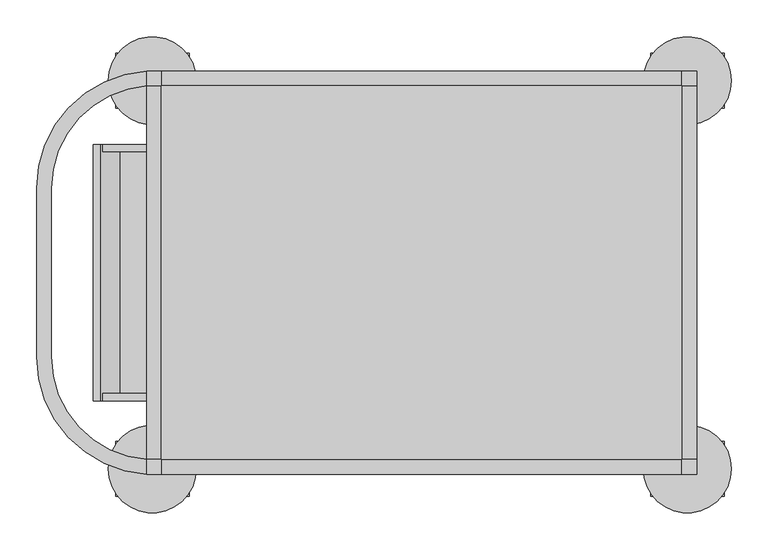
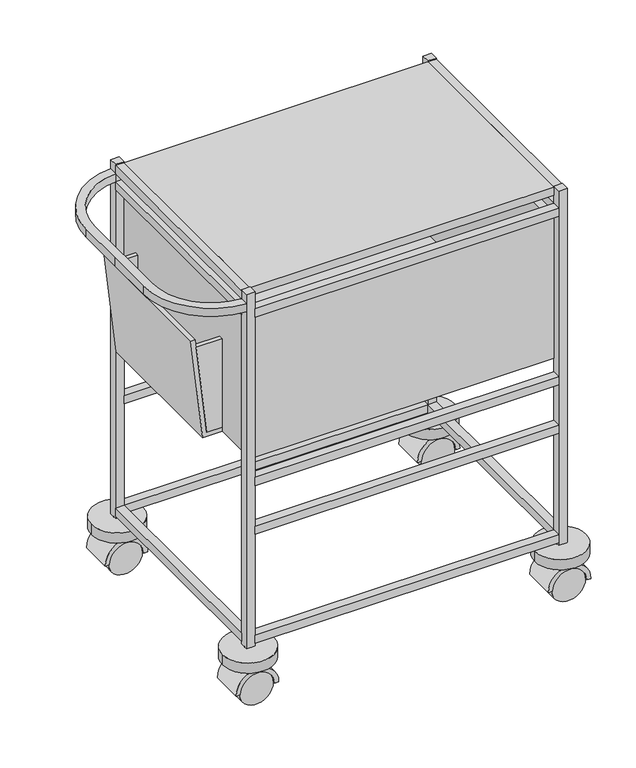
"""IFC4 building model written with IfcOpenShell, lengths in millimetres: furniture geometry, BIMHealth-Trolley_Notes_750x550-LOD2A-v1 : BIMHealth-Trolley_Notes_750x550-LOD2A-v1."""

from ifc_helpers import new_model, si_unit, point, frame, frame_2d, origin, place, context, project, spatial, polyline, circle_curve, trimmed, segment, composite_curve, outline, extrude, source, transform, mapped, element, save


def furniture_1a2447f9(model_context):
    return source(origin(), model_context, "Body", "SweptSolid", [
        extrude(outline(composite_curve([segment(trimmed(circle_curve(frame_2d((362.5, -267.5)), 7.5), [point((362.5, -260.0))], [point((362.5, -275.0))], False, "CARTESIAN"), True, "CONTINUOUS"), segment(trimmed(circle_curve(frame_2d((362.5, -267.5)), 7.5), [point((362.5, -275.0))], [point((362.5, -260.0))], False, "CARTESIAN"), True, "CONTINUOUS")], self_intersect=False)), frame((0.0, 0.0, 156.2360342), z_axis=(0.0, 0.0, 1.0), x_axis=(1.0, 0.0, 0.0)), (0.0, 0.0, 1.0), 20.0),
        extrude(outline(composite_curve([segment(polyline([(156.2360342, 333.2435995), (134.5055625, 333.2435995)]), True, "CONTINUOUS"), segment(trimmed(circle_curve(frame_2d((93.9585154, 362.5)), 50.0), [point((134.5055625, 333.2435995))], [point((134.5055625, 391.7564005))], True, "CARTESIAN"), True, "CONTINUOUS"), segment(polyline([(134.5055625, 391.7564005), (156.2360342, 391.7564005), (156.2360342, 333.2435995)]), True, "CONTINUOUS")], self_intersect=False)), frame((0.0, -290.1256637, 0.0), z_axis=(0.0, 1.0, 0.0), x_axis=(0.0, 0.0, 1.0)), (0.0, 0.0, 1.0), 45.2513275),
        extrude(outline(composite_curve([segment(trimmed(circle_curve(frame_2d((93.9585154, 362.5)), 40.0), [point((93.9585154, 322.5))], [point((93.9585154, 402.5))], True, "CARTESIAN"), True, "CONTINUOUS"), segment(polyline([(93.9585154, 402.5), (93.9585154, 412.5)]), True, "CONTINUOUS"), segment(trimmed(circle_curve(frame_2d((93.9585154, 362.5)), 50.0), [point((93.9585154, 412.5))], [point((93.9585154, 312.5))], False, "CARTESIAN"), True, "CONTINUOUS"), segment(polyline([(93.9585154, 312.5), (93.9585154, 322.5)]), True, "CONTINUOUS")], self_intersect=False)), frame((0.0, -305.2936384, 0.0), z_axis=(0.0, 1.0, 0.0), x_axis=(0.0, 0.0, 1.0)), (0.0, 0.0, 1.0), 75.0),
        extrude(outline(composite_curve([segment(trimmed(circle_curve(frame_2d((93.9585154, 362.5)), 40.0), [point((93.9585154, 402.5))], [point((93.9585154, 322.5))], False, "CARTESIAN"), True, "CONTINUOUS"), segment(trimmed(circle_curve(frame_2d((93.9585154, 362.5)), 40.0), [point((93.9585154, 322.5))], [point((93.9585154, 402.5))], False, "CARTESIAN"), True, "CONTINUOUS")], self_intersect=False)), frame((0.0, -300.2936384, 0.0), z_axis=(0.0, 1.0, 0.0), x_axis=(0.0, 0.0, 1.0)), (0.0, 0.0, 1.0), 20.0),
        extrude(outline(composite_curve([segment(trimmed(circle_curve(frame_2d((93.9585154, 362.5)), 40.0), [point((93.9585154, 402.5))], [point((93.9585154, 322.5))], False, "CARTESIAN"), True, "CONTINUOUS"), segment(trimmed(circle_curve(frame_2d((93.9585154, 362.5)), 40.0), [point((93.9585154, 322.5))], [point((93.9585154, 402.5))], False, "CARTESIAN"), True, "CONTINUOUS")], self_intersect=False)), frame((0.0, -255.2936384, 0.0), z_axis=(0.0, 1.0, 0.0), x_axis=(0.0, 0.0, 1.0)), (0.0, 0.0, 1.0), 20.0),
        extrude(outline(composite_curve([segment(trimmed(circle_curve(frame_2d((-367.2063616, -267.5)), 7.5), [point((-367.2063616, -260.0))], [point((-367.2063616, -275.0))], False, "CARTESIAN"), True, "CONTINUOUS"), segment(trimmed(circle_curve(frame_2d((-367.2063616, -267.5)), 7.5), [point((-367.2063616, -275.0))], [point((-367.2063616, -260.0))], False, "CARTESIAN"), True, "CONTINUOUS")], self_intersect=False)), frame((0.0, 0.0, 156.2360342), z_axis=(0.0, 0.0, 1.0), x_axis=(1.0, 0.0, 0.0)), (0.0, 0.0, 1.0), 20.0),
        extrude(outline(composite_curve([segment(polyline([(156.2360342, -396.4627621), (134.5055625, -396.4627621)]), True, "CONTINUOUS"), segment(trimmed(circle_curve(frame_2d((93.9585154, -367.2063616)), 50.0), [point((134.5055625, -396.4627621))], [point((134.5055625, -337.9499611))], True, "CARTESIAN"), True, "CONTINUOUS"), segment(polyline([(134.5055625, -337.9499611), (156.2360342, -337.9499611), (156.2360342, -396.4627621)]), True, "CONTINUOUS")], self_intersect=False)), frame((0.0, -290.1256637, 0.0), z_axis=(0.0, 1.0, 0.0), x_axis=(0.0, 0.0, 1.0)), (0.0, 0.0, 1.0), 45.2513275),
        extrude(outline(composite_curve([segment(trimmed(circle_curve(frame_2d((93.9585154, -367.2063616)), 40.0), [point((93.9585154, -407.2063616))], [point((93.9585154, -327.2063616))], True, "CARTESIAN"), True, "CONTINUOUS"), segment(polyline([(93.9585154, -327.2063616), (93.9585154, -317.2063616)]), True, "CONTINUOUS"), segment(trimmed(circle_curve(frame_2d((93.9585154, -367.2063616)), 50.0), [point((93.9585154, -317.2063616))], [point((93.9585154, -417.2063616))], False, "CARTESIAN"), True, "CONTINUOUS"), segment(polyline([(93.9585154, -417.2063616), (93.9585154, -407.2063616)]), True, "CONTINUOUS")], self_intersect=False)), frame((0.0, -305.2936384, 0.0), z_axis=(0.0, 1.0, 0.0), x_axis=(0.0, 0.0, 1.0)), (0.0, 0.0, 1.0), 75.0),
        extrude(outline(composite_curve([segment(trimmed(circle_curve(frame_2d((93.9585154, -367.2063616)), 40.0), [point((93.9585154, -327.2063616))], [point((93.9585154, -407.2063616))], False, "CARTESIAN"), True, "CONTINUOUS"), segment(trimmed(circle_curve(frame_2d((93.9585154, -367.2063616)), 40.0), [point((93.9585154, -407.2063616))], [point((93.9585154, -327.2063616))], False, "CARTESIAN"), True, "CONTINUOUS")], self_intersect=False)), frame((0.0, -300.2936384, 0.0), z_axis=(0.0, 1.0, 0.0), x_axis=(0.0, 0.0, 1.0)), (0.0, 0.0, 1.0), 20.0),
        extrude(outline(composite_curve([segment(trimmed(circle_curve(frame_2d((93.9585154, -367.2063616)), 40.0), [point((93.9585154, -327.2063616))], [point((93.9585154, -407.2063616))], False, "CARTESIAN"), True, "CONTINUOUS"), segment(trimmed(circle_curve(frame_2d((93.9585154, -367.2063616)), 40.0), [point((93.9585154, -407.2063616))], [point((93.9585154, -327.2063616))], False, "CARTESIAN"), True, "CONTINUOUS")], self_intersect=False)), frame((0.0, -255.2936384, 0.0), z_axis=(0.0, 1.0, 0.0), x_axis=(0.0, 0.0, 1.0)), (0.0, 0.0, 1.0), 20.0),
        extrude(outline(composite_curve([segment(trimmed(circle_curve(frame_2d((362.5, 262.5)), 7.5), [point((362.5, 270.0))], [point((362.5, 255.0))], False, "CARTESIAN"), True, "CONTINUOUS"), segment(trimmed(circle_curve(frame_2d((362.5, 262.5)), 7.5), [point((362.5, 255.0))], [point((362.5, 270.0))], False, "CARTESIAN"), True, "CONTINUOUS")], self_intersect=False)), frame((0.0, 0.0, 156.2360342), z_axis=(0.0, 0.0, 1.0), x_axis=(1.0, 0.0, 0.0)), (0.0, 0.0, 1.0), 20.0),
        extrude(outline(composite_curve([segment(polyline([(156.2360342, 333.2435995), (134.5055625, 333.2435995)]), True, "CONTINUOUS"), segment(trimmed(circle_curve(frame_2d((93.9585154, 362.5)), 50.0), [point((134.5055625, 333.2435995))], [point((134.5055625, 391.7564005))], True, "CARTESIAN"), True, "CONTINUOUS"), segment(polyline([(134.5055625, 391.7564005), (156.2360342, 391.7564005), (156.2360342, 333.2435995)]), True, "CONTINUOUS")], self_intersect=False)), frame((0.0, 239.8743363, 0.0), z_axis=(0.0, 1.0, 0.0), x_axis=(0.0, 0.0, 1.0)), (0.0, 0.0, 1.0), 45.2513275),
        extrude(outline(composite_curve([segment(trimmed(circle_curve(frame_2d((93.9585154, 362.5)), 40.0), [point((93.9585154, 322.5))], [point((93.9585154, 402.5))], True, "CARTESIAN"), True, "CONTINUOUS"), segment(polyline([(93.9585154, 402.5), (93.9585154, 412.5)]), True, "CONTINUOUS"), segment(trimmed(circle_curve(frame_2d((93.9585154, 362.5)), 50.0), [point((93.9585154, 412.5))], [point((93.9585154, 312.5))], False, "CARTESIAN"), True, "CONTINUOUS"), segment(polyline([(93.9585154, 312.5), (93.9585154, 322.5)]), True, "CONTINUOUS")], self_intersect=False)), frame((0.0, 224.7063616, 0.0), z_axis=(0.0, 1.0, 0.0), x_axis=(0.0, 0.0, 1.0)), (0.0, 0.0, 1.0), 75.0),
        extrude(outline(composite_curve([segment(trimmed(circle_curve(frame_2d((93.9585154, 362.5)), 40.0), [point((93.9585154, 402.5))], [point((93.9585154, 322.5))], False, "CARTESIAN"), True, "CONTINUOUS"), segment(trimmed(circle_curve(frame_2d((93.9585154, 362.5)), 40.0), [point((93.9585154, 322.5))], [point((93.9585154, 402.5))], False, "CARTESIAN"), True, "CONTINUOUS")], self_intersect=False)), frame((0.0, 229.7063616, 0.0), z_axis=(0.0, 1.0, 0.0), x_axis=(0.0, 0.0, 1.0)), (0.0, 0.0, 1.0), 20.0),
        extrude(outline(composite_curve([segment(trimmed(circle_curve(frame_2d((93.9585154, 362.5)), 40.0), [point((93.9585154, 402.5))], [point((93.9585154, 322.5))], False, "CARTESIAN"), True, "CONTINUOUS"), segment(trimmed(circle_curve(frame_2d((93.9585154, 362.5)), 40.0), [point((93.9585154, 322.5))], [point((93.9585154, 402.5))], False, "CARTESIAN"), True, "CONTINUOUS")], self_intersect=False)), frame((0.0, 274.7063616, 0.0), z_axis=(0.0, 1.0, 0.0), x_axis=(0.0, 0.0, 1.0)), (0.0, 0.0, 1.0), 20.0),
        extrude(outline(composite_curve([segment(trimmed(circle_curve(frame_2d((-367.2063616, 262.5)), 7.5), [point((-367.2063616, 270.0))], [point((-367.2063616, 255.0))], False, "CARTESIAN"), True, "CONTINUOUS"), segment(trimmed(circle_curve(frame_2d((-367.2063616, 262.5)), 7.5), [point((-367.2063616, 255.0))], [point((-367.2063616, 270.0))], False, "CARTESIAN"), True, "CONTINUOUS")], self_intersect=False)), frame((0.0, 0.0, 156.2360342), z_axis=(0.0, 0.0, 1.0), x_axis=(1.0, 0.0, 0.0)), (0.0, 0.0, 1.0), 20.0),
        extrude(outline(composite_curve([segment(polyline([(156.2360342, -396.4627621), (134.5055625, -396.4627621)]), True, "CONTINUOUS"), segment(trimmed(circle_curve(frame_2d((93.9585154, -367.2063616)), 50.0), [point((134.5055625, -396.4627621))], [point((134.5055625, -337.9499611))], True, "CARTESIAN"), True, "CONTINUOUS"), segment(polyline([(134.5055625, -337.9499611), (156.2360342, -337.9499611), (156.2360342, -396.4627621)]), True, "CONTINUOUS")], self_intersect=False)), frame((0.0, 239.8743363, 0.0), z_axis=(0.0, 1.0, 0.0), x_axis=(0.0, 0.0, 1.0)), (0.0, 0.0, 1.0), 45.2513275),
        extrude(outline(composite_curve([segment(trimmed(circle_curve(frame_2d((93.9585154, -367.2063616)), 40.0), [point((93.9585154, -407.2063616))], [point((93.9585154, -327.2063616))], True, "CARTESIAN"), True, "CONTINUOUS"), segment(polyline([(93.9585154, -327.2063616), (93.9585154, -317.2063616)]), True, "CONTINUOUS"), segment(trimmed(circle_curve(frame_2d((93.9585154, -367.2063616)), 50.0), [point((93.9585154, -317.2063616))], [point((93.9585154, -417.2063616))], False, "CARTESIAN"), True, "CONTINUOUS"), segment(polyline([(93.9585154, -417.2063616), (93.9585154, -407.2063616)]), True, "CONTINUOUS")], self_intersect=False)), frame((0.0, 224.7063616, 0.0), z_axis=(0.0, 1.0, 0.0), x_axis=(0.0, 0.0, 1.0)), (0.0, 0.0, 1.0), 75.0),
        extrude(outline(composite_curve([segment(trimmed(circle_curve(frame_2d((93.9585154, -367.2063616)), 40.0), [point((93.9585154, -327.2063616))], [point((93.9585154, -407.2063616))], False, "CARTESIAN"), True, "CONTINUOUS"), segment(trimmed(circle_curve(frame_2d((93.9585154, -367.2063616)), 40.0), [point((93.9585154, -407.2063616))], [point((93.9585154, -327.2063616))], False, "CARTESIAN"), True, "CONTINUOUS")], self_intersect=False)), frame((0.0, 229.7063616, 0.0), z_axis=(0.0, 1.0, 0.0), x_axis=(0.0, 0.0, 1.0)), (0.0, 0.0, 1.0), 20.0),
        extrude(outline(composite_curve([segment(trimmed(circle_curve(frame_2d((93.9585154, -367.2063616)), 40.0), [point((93.9585154, -327.2063616))], [point((93.9585154, -407.2063616))], False, "CARTESIAN"), True, "CONTINUOUS"), segment(trimmed(circle_curve(frame_2d((93.9585154, -367.2063616)), 40.0), [point((93.9585154, -407.2063616))], [point((93.9585154, -327.2063616))], False, "CARTESIAN"), True, "CONTINUOUS")], self_intersect=False)), frame((0.0, 274.7063616, 0.0), z_axis=(0.0, 1.0, 0.0), x_axis=(0.0, 0.0, 1.0)), (0.0, 0.0, 1.0), 20.0),
        extrude(outline(polyline([(335.0, 235.0), (335.0, -235.0), (-335.0, -235.0), (-335.0, 235.0), (335.0, 235.0)])), frame((0.0, 0.0, 627.9170308), z_axis=(0.0, 0.0, 1.0), x_axis=(1.0, 0.0, 0.0)), (0.0, 0.0, 1.0), 25.0),
        extrude(outline(polyline([(355.0, -255.0), (-355.0, -255.0), (-355.0, 255.0), (355.0, 255.0), (355.0, -255.0)])), frame((0.0, 0.0, 1030.0), z_axis=(0.0, 0.0, 1.0), x_axis=(1.0, 0.0, 0.0)), (0.0, 0.0, 1.0), 20.0),
        extrude(outline(polyline([(663.9585154, -411.1071418), (663.9585154, -375.0), (882.6224464, -375.0), (882.6224464, -435.3163402), (663.9585154, -411.1071418)])), frame((0.0, 165.0, 0.0), z_axis=(0.0, 1.0, 0.0), x_axis=(0.0, 0.0, 1.0)), (0.0, 0.0, 1.0), 10.0),
        extrude(outline(polyline([(663.9585154, -411.1071418), (663.9585154, -375.0), (882.6224464, -375.0), (882.6224464, -435.3163402), (663.9585154, -411.1071418)])), frame((0.0, -175.0, 0.0), z_axis=(0.0, 1.0, 0.0), x_axis=(0.0, 0.0, 1.0)), (0.0, 0.0, 1.0), 10.0),
        extrude(outline(polyline([(653.9585154, -420.0), (653.9585154, -375.0), (663.9585154, -375.0), (663.9585154, -411.1071418), (902.4402552, -437.5104527), (902.4402552, -447.5104527), (653.9585154, -420.0)])), frame((0.0, -175.0, 0.0), z_axis=(0.0, 1.0, 0.0), x_axis=(0.0, 0.0, 1.0)), (0.0, 0.0, 1.0), 350.0),
        extrude(outline(composite_curve([segment(trimmed(circle_curve(frame_2d((362.5, -267.7936384)), 60.0), [point((302.5, -267.7936384))], [point((422.5, -267.7936384))], False, "CARTESIAN"), True, "CONTINUOUS"), segment(trimmed(circle_curve(frame_2d((362.5, -267.7936384)), 60.0), [point((422.5, -267.7936384))], [point((302.5, -267.7936384))], False, "CARTESIAN"), True, "CONTINUOUS")], self_intersect=False)), frame((0.0, 0.0, 152.2775188), z_axis=(0.0, 0.0, 1.0), x_axis=(1.0, 0.0, 0.0)), (0.0, 0.0, 1.0), 25.0),
        extrude(outline(composite_curve([segment(trimmed(circle_curve(frame_2d((-367.2063616, -267.7936384)), 60.0), [point((-427.2063616, -267.7936384))], [point((-307.2063616, -267.7936384))], False, "CARTESIAN"), True, "CONTINUOUS"), segment(trimmed(circle_curve(frame_2d((-367.2063616, -267.7936384)), 60.0), [point((-307.2063616, -267.7936384))], [point((-427.2063616, -267.7936384))], False, "CARTESIAN"), True, "CONTINUOUS")], self_intersect=False)), frame((0.0, 0.0, 152.2775188), z_axis=(0.0, 0.0, 1.0), x_axis=(1.0, 0.0, 0.0)), (0.0, 0.0, 1.0), 25.0),
        extrude(outline(composite_curve([segment(trimmed(circle_curve(frame_2d((362.5, 262.2063616)), 60.0), [point((302.5, 262.2063616))], [point((422.5, 262.2063616))], False, "CARTESIAN"), True, "CONTINUOUS"), segment(trimmed(circle_curve(frame_2d((362.5, 262.2063616)), 60.0), [point((422.5, 262.2063616))], [point((302.5, 262.2063616))], False, "CARTESIAN"), True, "CONTINUOUS")], self_intersect=False)), frame((0.0, 0.0, 152.2775188), z_axis=(0.0, 0.0, 1.0), x_axis=(1.0, 0.0, 0.0)), (0.0, 0.0, 1.0), 25.0),
        extrude(outline(composite_curve([segment(trimmed(circle_curve(frame_2d((-367.2063616, 262.2063616)), 60.0), [point((-427.2063616, 262.2063616))], [point((-307.2063616, 262.2063616))], False, "CARTESIAN"), True, "CONTINUOUS"), segment(trimmed(circle_curve(frame_2d((-367.2063616, 262.2063616)), 60.0), [point((-307.2063616, 262.2063616))], [point((-427.2063616, 262.2063616))], False, "CARTESIAN"), True, "CONTINUOUS")], self_intersect=False)), frame((0.0, 0.0, 152.2775188), z_axis=(0.0, 0.0, 1.0), x_axis=(1.0, 0.0, 0.0)), (0.0, 0.0, 1.0), 25.0),
        extrude(outline(polyline([(375.0, 255.0), (375.0, -255.0), (355.0, -255.0), (355.0, 255.0), (375.0, 255.0)])), frame((0.0, 0.0, 1030.0), z_axis=(0.0, 0.0, 1.0), x_axis=(1.0, 0.0, 0.0)), (0.0, 0.0, 1.0), 20.0),
        extrude(outline(polyline([(-355.0, 255.0), (-355.0, -255.0), (-375.0, -255.0), (-375.0, 255.0), (-355.0, 255.0)])), frame((0.0, 0.0, 1030.0), z_axis=(0.0, 0.0, 1.0), x_axis=(1.0, 0.0, 0.0)), (0.0, 0.0, 1.0), 20.0),
        extrude(outline(composite_curve([segment(trimmed(circle_curve(frame_2d((-365.0, 115.3128058)), 160.0), [point((-525.0, 115.3128058))], [point((-375.0, 275.0))], False, "CARTESIAN"), True, "CONTINUOUS"), segment(polyline([(-375.0, 275.0), (-375.0, 255.0)]), True, "CONTINUOUS"), segment(trimmed(circle_curve(frame_2d((-365.0, 115.3575996)), 140.0), [point((-375.0, 255.0))], [point((-505.0, 115.3575996))], True, "CARTESIAN"), True, "CONTINUOUS"), segment(polyline([(-505.0, 115.3575996), (-505.0, -115.3575996)]), True, "CONTINUOUS"), segment(trimmed(circle_curve(frame_2d((-365.0, -115.3575996)), 140.0), [point((-505.0, -115.3575996))], [point((-375.0, -255.0))], True, "CARTESIAN"), True, "CONTINUOUS"), segment(polyline([(-375.0, -255.0), (-375.0, -275.0)]), True, "CONTINUOUS"), segment(trimmed(circle_curve(frame_2d((-365.0, -115.3128058)), 160.0), [point((-375.0, -275.0))], [point((-525.0, -115.3128058))], False, "CARTESIAN"), True, "CONTINUOUS"), segment(polyline([(-525.0, -115.3128058), (-525.0, 0.0), (-525.0, 115.3128058)]), True, "CONTINUOUS")], self_intersect=False)), frame((0.0, 0.0, 1010.0), z_axis=(0.0, 0.0, 1.0), x_axis=(1.0, 0.0, 0.0)), (0.0, 0.0, 1.0), 20.0),
        extrude(outline(polyline([(355.0, 255.0), (355.0, -255.0), (-355.0, -255.0), (-355.0, 255.0), (355.0, 255.0)]), holes=[polyline([(-335.0, -235.0), (335.0, -235.0), (335.0, 235.0), (-335.0, 235.0), (-335.0, -235.0)])]), frame((0.0, 0.0, 627.9170308), z_axis=(0.0, 0.0, 1.0), x_axis=(1.0, 0.0, 0.0)), (0.0, 0.0, 1.0), 362.0829692),
        extrude(outline(polyline([(355.0, -275.0), (-355.0, -275.0), (-355.0, -255.0), (355.0, -255.0), (355.0, -275.0)])), frame((0.0, 0.0, 990.0), z_axis=(0.0, 0.0, 1.0), x_axis=(1.0, 0.0, 0.0)), (0.0, 0.0, 1.0), 20.0),
        extrude(outline(polyline([(355.0, 255.0), (-355.0, 255.0), (-355.0, 275.0), (355.0, 275.0), (355.0, 255.0)])), frame((0.0, 0.0, 990.0), z_axis=(0.0, 0.0, 1.0), x_axis=(1.0, 0.0, 0.0)), (0.0, 0.0, 1.0), 20.0),
        extrude(outline(polyline([(375.0, 255.0), (375.0, -255.0), (355.0, -255.0), (355.0, 255.0), (375.0, 255.0)])), frame((0.0, 0.0, 990.0), z_axis=(0.0, 0.0, 1.0), x_axis=(1.0, 0.0, 0.0)), (0.0, 0.0, 1.0), 20.0),
        extrude(outline(polyline([(-355.0, 255.0), (-355.0, -255.0), (-375.0, -255.0), (-375.0, 255.0), (-355.0, 255.0)])), frame((0.0, 0.0, 990.0), z_axis=(0.0, 0.0, 1.0), x_axis=(1.0, 0.0, 0.0)), (0.0, 0.0, 1.0), 20.0),
        extrude(outline(polyline([(375.0, 255.0), (375.0, -255.0), (355.0, -255.0), (355.0, 255.0), (375.0, 255.0)])), frame((0.0, 0.0, 183.9585154), z_axis=(0.0, 0.0, 1.0), x_axis=(1.0, 0.0, 0.0)), (0.0, 0.0, 1.0), 20.0),
        extrude(outline(polyline([(-355.0, 255.0), (-355.0, -255.0), (-375.0, -255.0), (-375.0, 255.0), (-355.0, 255.0)])), frame((0.0, 0.0, 183.9585154), z_axis=(0.0, 0.0, 1.0), x_axis=(1.0, 0.0, 0.0)), (0.0, 0.0, 1.0), 20.0),
        extrude(outline(polyline([(355.0, 255.0), (-355.0, 255.0), (-355.0, 275.0), (355.0, 275.0), (355.0, 255.0)])), frame((0.0, 0.0, 183.9585154), z_axis=(0.0, 0.0, 1.0), x_axis=(1.0, 0.0, 0.0)), (0.0, 0.0, 1.0), 20.0),
        extrude(outline(polyline([(355.0, 255.0), (-355.0, 255.0), (-355.0, 275.0), (355.0, 275.0), (355.0, 255.0)])), frame((0.0, 0.0, 453.9585154), z_axis=(0.0, 0.0, 1.0), x_axis=(1.0, 0.0, 0.0)), (0.0, 0.0, 1.0), 20.0),
        extrude(outline(polyline([(355.0, 255.0), (-355.0, 255.0), (-355.0, 275.0), (355.0, 275.0), (355.0, 255.0)])), frame((0.0, 0.0, 573.9585154), z_axis=(0.0, 0.0, 1.0), x_axis=(1.0, 0.0, 0.0)), (0.0, 0.0, 1.0), 20.0),
        extrude(outline(polyline([(355.0, -275.0), (-355.0, -275.0), (-355.0, -255.0), (355.0, -255.0), (355.0, -275.0)])), frame((0.0, 0.0, 183.9585154), z_axis=(0.0, 0.0, 1.0), x_axis=(1.0, 0.0, 0.0)), (0.0, 0.0, 1.0), 20.0),
        extrude(outline(polyline([(355.0, -275.0), (-355.0, -275.0), (-355.0, -255.0), (355.0, -255.0), (355.0, -275.0)])), frame((0.0, 0.0, 453.9585154), z_axis=(0.0, 0.0, 1.0), x_axis=(1.0, 0.0, 0.0)), (0.0, 0.0, 1.0), 20.0),
        extrude(outline(polyline([(355.0, -275.0), (-355.0, -275.0), (-355.0, -255.0), (355.0, -255.0), (355.0, -275.0)])), frame((0.0, 0.0, 573.9585154), z_axis=(0.0, 0.0, 1.0), x_axis=(1.0, 0.0, 0.0)), (0.0, 0.0, 1.0), 20.0),
        extrude(outline(polyline([(-355.0, 275.0), (-355.0, 255.0), (-375.0, 255.0), (-375.0, 275.0), (-355.0, 275.0)])), frame((0.0, 0.0, 176.2360342), z_axis=(0.0, 0.0, 1.0), x_axis=(1.0, 0.0, 0.0)), (0.0, 0.0, 1.0), 876.0414846),
        extrude(outline(polyline([(375.0, 275.0), (375.0, 255.0), (355.0, 255.0), (355.0, 275.0), (375.0, 275.0)])), frame((0.0, 0.0, 176.2360342), z_axis=(0.0, 0.0, 1.0), x_axis=(1.0, 0.0, 0.0)), (0.0, 0.0, 1.0), 876.0414846),
        extrude(outline(polyline([(375.0, -255.0), (375.0, -275.0), (355.0, -275.0), (355.0, -255.0), (375.0, -255.0)])), frame((0.0, 0.0, 176.2360342), z_axis=(0.0, 0.0, 1.0), x_axis=(1.0, 0.0, 0.0)), (0.0, 0.0, 1.0), 876.0414846),
        extrude(outline(polyline([(-355.0, -255.0), (-355.0, -275.0), (-375.0, -275.0), (-375.0, -255.0), (-355.0, -255.0)])), frame((0.0, 0.0, 176.2360342), z_axis=(0.0, 0.0, 1.0), x_axis=(1.0, 0.0, 0.0)), (0.0, 0.0, 1.0), 876.0414846),
    ])


if __name__ == "__main__":
    model = new_model("IFC4")
    model_context = context("Model", 3, world=origin())
    ifc_project = project(units=[si_unit("LENGTHUNIT", "METRE", prefix="MILLI")], contexts=[model_context])
    site = spatial("IfcSite", under=ifc_project)
    building = spatial("IfcBuilding", under=site)
    placement = place(None, origin())
    furniture_shape = furniture_1a2447f9(model_context)
    element("IfcFurniture", 1, ObjectType="BIMHealth-Trolley_Notes_750x550-LOD2A-v1 : BIMHealth-Trolley_Notes_750x550-LOD2A-v1", at=placement, inside=building, context=model_context, shape_type="MappedRepresentation", body=[
        mapped(furniture_shape, transform((0.0, 0.0, 0.0), x_axis=(1.0, 0.0, 0.0), y_axis=(0.0, 1.0, 0.0), z_axis=(0.0, 0.0, 1.0))),
    ])
    save(model, "model.ifc")
